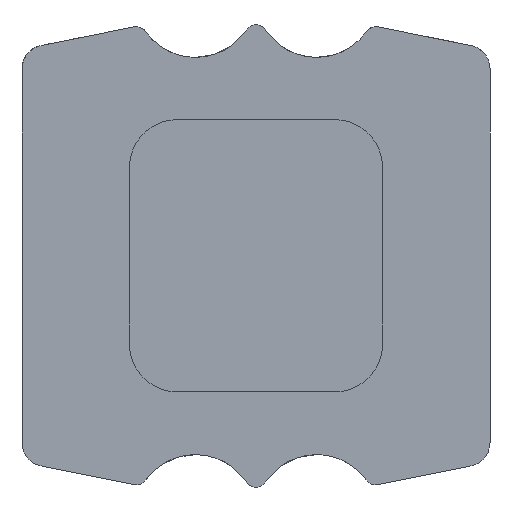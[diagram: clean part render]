
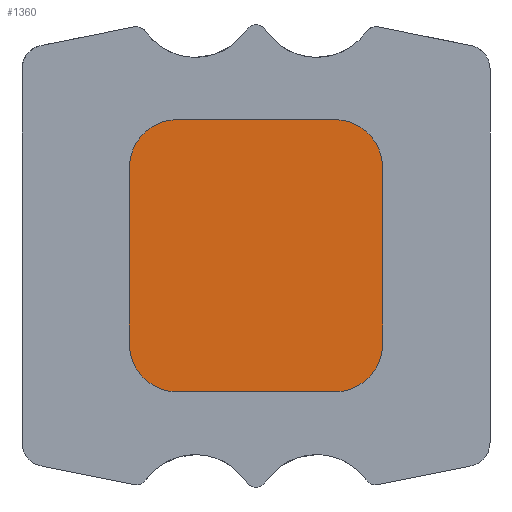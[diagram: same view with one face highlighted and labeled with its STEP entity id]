
A CAD part, left-side view. The second image highlights one B-rep face of the part: STEP entity #1360.
In plain terms, the highlighted planar face has unit normal (-1, 0, 0).
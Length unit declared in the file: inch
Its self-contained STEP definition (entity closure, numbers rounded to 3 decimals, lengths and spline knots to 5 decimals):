
#531=CARTESIAN_POINT('',(0.88583,7.65748,
-0.26786));
#532=DIRECTION('',(-1.,0.,0.));
#533=DIRECTION('',(0.,0.,-1.));
#534=AXIS2_PLACEMENT_3D('',#531,#532,#533);
#536=DIRECTION('',(0.,-1.,0.));
#537=VECTOR('',#536,0.25984);
#538=CARTESIAN_POINT('',(0.88583,7.91732,
-0.3466));
#539=LINE('',#538,#537);
#540=CARTESIAN_POINT('',(0.88583,7.91732,
-0.26786));
#541=DIRECTION('',(-1.,0.,0.));
#542=DIRECTION('',(0.,1.,0.));
#543=AXIS2_PLACEMENT_3D('',#540,#541,#542);
#545=DIRECTION('',(0.,0.,-1.));
#546=VECTOR('',#545,0.29134);
#547=CARTESIAN_POINT('',(0.88583,7.99606,0.02348));
#548=LINE('',#547,#546);
#549=CARTESIAN_POINT('',(0.88583,7.91732,0.02348));
#550=DIRECTION('',(-1.,0.,0.));
#551=DIRECTION('',(0.,0.,1.));
#552=AXIS2_PLACEMENT_3D('',#549,#550,#551);
#554=DIRECTION('',(0.,1.,0.));
#555=VECTOR('',#554,0.25984);
#556=CARTESIAN_POINT('',(0.88583,7.65748,0.10222));
#557=LINE('',#556,#555);
#558=CARTESIAN_POINT('',(0.88583,7.65748,0.02348));
#559=DIRECTION('',(-1.,0.,0.));
#560=DIRECTION('',(0.,-1.,0.));
#561=AXIS2_PLACEMENT_3D('',#558,#559,#560);
#563=DIRECTION('',(0.,0.,1.));
#564=VECTOR('',#563,0.29134);
#565=CARTESIAN_POINT('',(0.88583,7.57874,
-0.26786));
#566=LINE('',#565,#564);
#622=CARTESIAN_POINT('',(0.88583,7.99606,0.02348));
#623=CARTESIAN_POINT('',(0.88583,7.99606,
-0.26786));
#624=VERTEX_POINT('',#622);
#625=VERTEX_POINT('',#623);
#682=CARTESIAN_POINT('',(0.88583,7.57874,
-0.26786));
#684=VERTEX_POINT('',#682);
#689=CARTESIAN_POINT('',(0.88583,7.65748,0.10222));
#690=CARTESIAN_POINT('',(0.88583,7.91732,0.10222));
#691=VERTEX_POINT('',#689);
#692=VERTEX_POINT('',#690);
#705=CARTESIAN_POINT('',(0.88583,7.65748,
-0.3466));
#706=VERTEX_POINT('',#705);
#713=CARTESIAN_POINT('',(0.88583,7.57874,0.02348));
#714=VERTEX_POINT('',#713);
#730=CARTESIAN_POINT('',(0.88583,7.91732,
-0.3466));
#731=VERTEX_POINT('',#730);
#1340=CARTESIAN_POINT('',(0.88583,7.65748,
0.10222));
#1341=DIRECTION('',(-1.,0.,0.));
#1342=DIRECTION('',(0.,0.,1.));
#1343=AXIS2_PLACEMENT_3D('',#1340,#1341,#1342);
#1344=PLANE('',#1343);
#1346=ORIENTED_EDGE('',*,*,#1345,.F.);
#1348=ORIENTED_EDGE('',*,*,#1347,.F.);
#1350=ORIENTED_EDGE('',*,*,#1349,.F.);
#1352=ORIENTED_EDGE('',*,*,#1351,.F.);
#1353=ORIENTED_EDGE('',*,*,#1320,.F.);
#1354=ORIENTED_EDGE('',*,*,#1334,.F.);
#1355=ORIENTED_EDGE('',*,*,#749,.F.);
#1357=ORIENTED_EDGE('',*,*,#1356,.F.);
#1358=EDGE_LOOP('',(#1346,#1348,#1350,#1352,#1353,#1354,#1355,#1357));
#1359=FACE_OUTER_BOUND('',#1358,.F.);
#535=CIRCLE('',#534,0.07874);
#544=CIRCLE('',#543,0.07874);
#553=CIRCLE('',#552,0.07874);
#562=CIRCLE('',#561,0.07874);
#749=EDGE_CURVE('',#714,#691,#562,.T.);
#1320=EDGE_CURVE('',#692,#624,#553,.T.);
#1334=EDGE_CURVE('',#691,#692,#557,.T.);
#1345=EDGE_CURVE('',#706,#684,#535,.T.);
#1347=EDGE_CURVE('',#731,#706,#539,.T.);
#1349=EDGE_CURVE('',#625,#731,#544,.T.);
#1351=EDGE_CURVE('',#624,#625,#548,.T.);
#1356=EDGE_CURVE('',#684,#714,#566,.T.);
#1360=ADVANCED_FACE('',(#1359),#1344,.T.);
